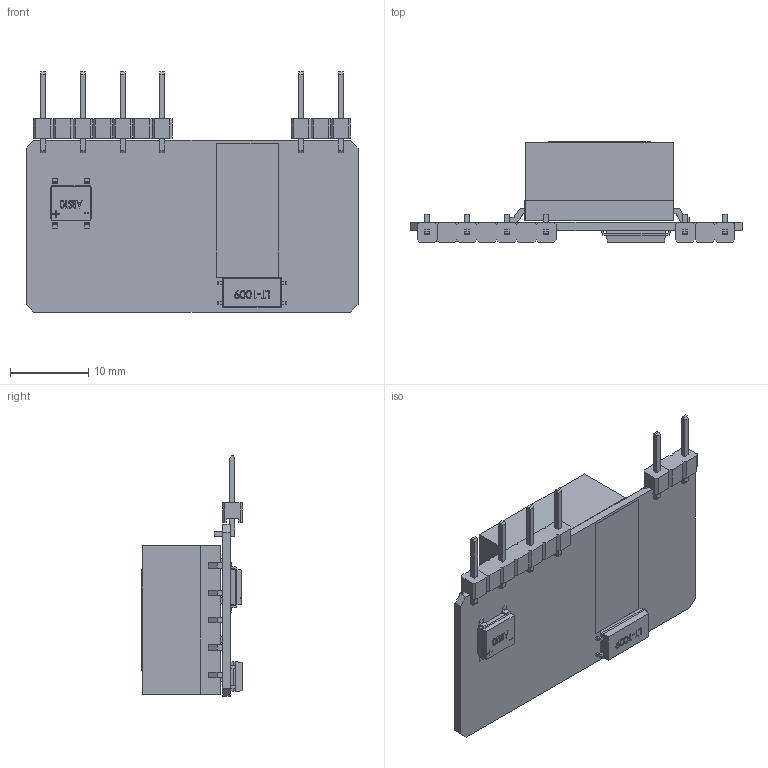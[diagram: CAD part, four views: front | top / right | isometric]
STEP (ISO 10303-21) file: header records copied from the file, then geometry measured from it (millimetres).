
FILE_DESCRIPTION (( 'STEP AP214' ), '1' );
FILE_NAME ('PSO15-X-A.STEP', '2026-01-30T08:48:15', ( '' ), ( '' ), 'SwSTEP 2.0', 'SolidWorks 2012', '' );
FILE_SCHEMA (( 'AUTOMOTIVE_DESIGN' ));
Length unit declared in the file: millimetre
Products named in the file (7): 033-25082-00100; 033-25082-00200; PSO15-X-A; S70-04900-00200_SOP-4_LTV-1009; ABS10; S80-43015-001; 100-63015-00100
Assembly tree (6 placements, depth 2):
  PSO15-X-A
    100-63015-00100
    S80-43015-001
    ABS10
    S70-04900-00200_SOP-4_LTV-1009
    033-25082-00100
    033-25082-00200
Bounding box: 42.5 x 12.89 x 30.76 mm (x, y, z)
Volume: 4826.2 mm3; surface area: 5394.9 mm2
Topology: 24 solids, 24 shells, 708 faces, 1813 edges, 1190 vertices
Faces by surface type: plane 620, bspline 60, cylinder 28
Entity records: 27620 total; most frequent: CARTESIAN_POINT 7892, ORIENTED_EDGE 3626, DIRECTION 3063, EDGE_CURVE 1813, LINE 1637, VECTOR 1637, VERTEX_POINT 1190, EDGE_LOOP 757
